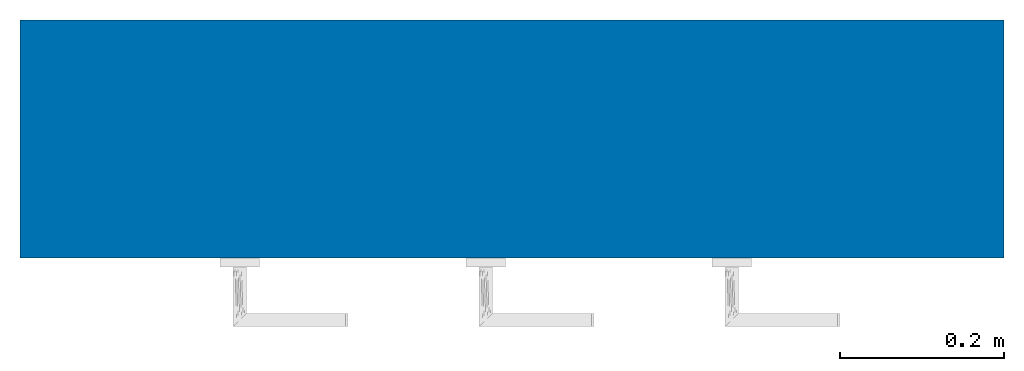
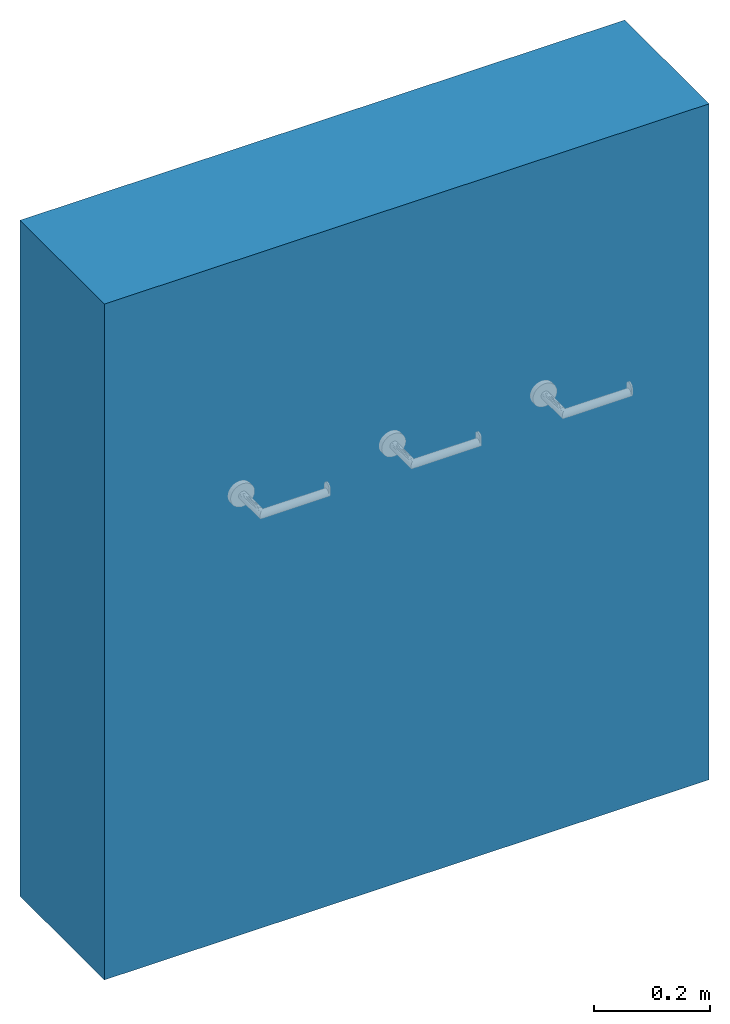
# One storey, part 1 of 3: 1 wall.
"""IFC2X3 building model written with IfcOpenShell, lengths in millimetres."""

import ifcopenshell
import ifcopenshell.guid

model = None  # the IFC model being written
_history = None  # IfcOwnerHistory: only IFC2X3 demands one
_inside = {}  # id of a spatial element -> (the spatial element, [elements in it])
_under = {}  # id of a project, library or spatial element -> (it, [spatial elements below it])
_declared = {}  # id of a project -> (the project, [libraries it declares])
_typed = {}  # id of a type object -> (the type object, [elements of that type])
_made_of = {}  # id of a material, layer set ... -> (it, [elements and type objects made of it])


def new_model(schema):
    """Start an empty IFC model of exactly this schema.

    Asked for "IFC4X3", IfcOpenShell would pick the latest addendum, in which some entities
    have other attributes; the version numbers below select the first issue.
    IFC2X3 requires an IfcOwnerHistory on every rooted entity: one is made here for all.
    """
    global model, _history
    if schema == "IFC4X3":
        model = ifcopenshell.file(schema_version=(4, 3, 0, 0))
    else:
        model = ifcopenshell.file(schema=schema)
    _inside.clear()
    _under.clear()
    _declared.clear()
    _typed.clear()
    _made_of.clear()
    _history = None
    if model.schema == "IFC2X3":
        org = make("IfcOrganization", Name="unknown")
        user = make(
            "IfcPersonAndOrganization",
            ThePerson=make("IfcPerson", FamilyName="unknown"),
            TheOrganization=org,
        )
        app = make(
            "IfcApplication",
            ApplicationDeveloper=org,
            Version="unknown",
            ApplicationFullName="unknown",
            ApplicationIdentifier="unknown",
        )
        _history = make(
            "IfcOwnerHistory",
            OwningUser=user,
            OwningApplication=app,
            ChangeAction="ADDED",
            CreationDate=0,
        )
    return model


def make(cls, **values):
    """One entity of the class cls with the attributes given. An attribute that is None is left unset."""
    return model.create_entity(
        cls, **{name: value for name, value in values.items() if value is not None}
    )


def entity(cls, *values):
    """Any entity or typed value of the class cls, its attributes in the order of the schema. None: left unset."""
    e = model.create_entity(cls)
    for i, value in enumerate(values):
        if value is not None:
            e[i] = value
    return e


def rooted(cls, **values):
    """An entity with a GlobalId (a new one), such as an element, a storey or a relation."""
    return make(cls, GlobalId=ifcopenshell.guid.new(), OwnerHistory=_history, **values)


def si_unit(unit_type, name, prefix=None):
    """IfcSIUnit, for example si_unit("LENGTHUNIT", "METRE", prefix="MILLI")."""
    return make("IfcSIUnit", UnitType=unit_type, Prefix=prefix, Name=name)


def converted_unit(unit_type, name, factor, base, dimensions=None, offset=None):
    """IfcConversionBasedUnit, such as the inch: factor (a typed value) times the base unit."""
    return make(
        "IfcConversionBasedUnit"
        if offset is None
        else "IfcConversionBasedUnitWithOffset",
        ConversionOffset=offset,
        Dimensions=None
        if dimensions is None
        else entity("IfcDimensionalExponents", *dimensions),
        UnitType=unit_type,
        Name=name,
        ConversionFactor=make(
            "IfcMeasureWithUnit", ValueComponent=factor, UnitComponent=base
        ),
    )


def derived_unit(unit_type, elements):
    """IfcDerivedUnit: a product of units, each with its exponent."""
    return make(
        "IfcDerivedUnit",
        Elements=[
            make("IfcDerivedUnitElement", Unit=unit, Exponent=power)
            for unit, power in elements
        ],
        UnitType=unit_type,
    )


def assignment(units):
    """IfcUnitAssignment: the units of a project."""
    return None if units is None else make("IfcUnitAssignment", Units=units)


def point(xyz):
    """IfcCartesianPoint."""
    return None if xyz is None else make("IfcCartesianPoint", Coordinates=xyz)


def direction(xyz):
    """IfcDirection."""
    return None if xyz is None else make("IfcDirection", DirectionRatios=xyz)


def frame(location, z_axis=None, x_axis=None):
    """IfcAxis2Placement3D, a coordinate frame: its origin and axes. An axis left out is left unset."""
    return make(
        "IfcAxis2Placement3D",
        Location=point(location),
        Axis=direction(z_axis),
        RefDirection=direction(x_axis),
    )


def frame_2d(location, x_axis=None):
    """IfcAxis2Placement2D, a coordinate frame in the plane: its origin and x axis."""
    return make(
        "IfcAxis2Placement2D", Location=point(location), RefDirection=direction(x_axis)
    )


def origin():
    """The frame at (0, 0, 0) with its axes left unset."""
    return frame((0.0, 0.0, 0.0))


def place(relative_to, where):
    """IfcLocalPlacement: puts the frame where relative to a parent placement (None: the world)."""
    return make(
        "IfcLocalPlacement", PlacementRelTo=relative_to, RelativePlacement=where
    )


def context(
    kind, dimensions, precision=None, world=None, true_north=None, identifier=None
):
    """IfcGeometricRepresentationContext, for example the 3D "Model" context."""
    return make(
        "IfcGeometricRepresentationContext",
        ContextIdentifier=identifier,
        ContextType=kind,
        CoordinateSpaceDimension=dimensions,
        Precision=precision,
        WorldCoordinateSystem=world,
        TrueNorth=true_north,
    )


def subcontext(parent, identifier, kind, view, scale=None):
    """IfcGeometricRepresentationSubContext, for example "Body" below "Model"."""
    return make(
        "IfcGeometricRepresentationSubContext",
        ContextIdentifier=identifier,
        ContextType=kind,
        ParentContext=parent,
        TargetScale=scale,
        TargetView=view,
    )


def project(units=None, contexts=None):
    """IfcProject with its units and contexts."""
    return rooted(
        "IfcProject",
        Name="project",
        RepresentationContexts=contexts,
        UnitsInContext=assignment(units),
    )


def spatial(cls, under=None, at=None, **own):
    """A site, building, storey or space (cls), placed at a placement, below another one or the project."""
    s = rooted(cls, ObjectPlacement=at, **own)
    if under is not None:
        _under.setdefault(under.id(), (under, []))[1].append(s)
    return s


def profile(cls, at=None, kind="AREA", **sizes):
    """A parametric profile (cls). Its sizes go by their IFC names, for example OverallWidth=200.0."""
    return make(cls, ProfileType=kind, Position=at, **sizes)


def rectangle(**sizes):
    """IfcRectangleProfileDef."""
    return profile("IfcRectangleProfileDef", **sizes)


def extrude(swept, where, along, depth):
    """IfcExtrudedAreaSolid: the profile swept, set in the frame where, extruded along a direction by depth."""
    return make(
        "IfcExtrudedAreaSolid",
        SweptArea=swept,
        Position=where,
        ExtrudedDirection=direction(along),
        Depth=depth,
    )


def shape(context_of_items, identifier, shape_type, items):
    """IfcShapeRepresentation: the items that make up one representation, for example the "Body"."""
    return make(
        "IfcShapeRepresentation",
        ContextOfItems=context_of_items,
        RepresentationIdentifier=identifier,
        RepresentationType=shape_type,
        Items=items,
    )


def material(Name=None, Category=None):
    """IfcMaterial."""
    return make("IfcMaterial", Name=Name, Category=Category)


def layer(
    of_material, thickness, ventilated=None, Name=None, Category=None, Priority=None
):
    """IfcMaterialLayer: one layer of a wall or slab, of a material (None: an air gap)."""
    return make(
        "IfcMaterialLayer",
        Material=of_material,
        LayerThickness=thickness,
        IsVentilated=ventilated,
        Name=Name,
        Category=Category,
        Priority=Priority,
    )


def layer_set(layers, Name=None):
    """IfcMaterialLayerSet."""
    return make("IfcMaterialLayerSet", MaterialLayers=layers, LayerSetName=Name)


def layer_usage(for_layer_set, set_direction, sense, offset, extent=None):
    """IfcMaterialLayerSetUsage: how a layer set lies in its element."""
    return make(
        "IfcMaterialLayerSetUsage",
        ForLayerSet=for_layer_set,
        LayerSetDirection=set_direction,
        DirectionSense=sense,
        OffsetFromReferenceLine=offset,
        ReferenceExtent=extent,
    )


def made_of(thing, what):
    """Note that an element or type object is made of a material, layer set ...; save() writes the relation."""
    if what is not None:
        _made_of.setdefault(what.id(), (what, []))[1].append(thing)
    return thing


def type_object(cls, material=None, **own):
    """A type object (cls), such as IfcWallType, which elements share."""
    return made_of(rooted(cls, **own), material)


def element(
    cls,
    number,
    at=None,
    inside=None,
    cuts=None,
    type_object=None,
    material=None,
    context=None,
    identifier="Body",
    shape_type=None,
    held_by="IfcProductDefinitionShape",
    body=None,
    shapes=None,
    **own,
):
    """One element of the class cls, such as IfcWall. Its Tag is "e" and its number.

    at: its placement. inside: the storey or other place that contains it. cuts: it is an
    opening in that element (IfcRelVoidsElement). A single representation is given by context,
    identifier, shape_type and body (its items); several are given by shapes. held_by: the class
    of the entity that holds the representations. save() writes the other relations.
    """
    e = rooted(cls, Tag="e%d" % number, ObjectPlacement=at, **own)
    if body is not None:
        shapes = [shape(context, identifier, shape_type, body)]
    if shapes is not None:
        e.Representation = make(held_by, Representations=shapes)
    if inside is not None:
        _inside.setdefault(inside.id(), (inside, []))[1].append(e)
    if cuts is not None:
        rooted(
            "IfcRelVoidsElement", RelatingBuildingElement=cuts, RelatedOpeningElement=e
        )
    if type_object is not None:
        _typed.setdefault(type_object.id(), (type_object, []))[1].append(e)
    return made_of(e, material)


def aggregate(whole, parts):
    """IfcRelAggregates: a whole, such as a stair, and the parts it consists of."""
    return rooted("IfcRelAggregates", RelatingObject=whole, RelatedObjects=parts)


def save(model, path):
    """Write the relations noted so far, then the file.

    IfcRelAggregates (storeys below a building ...), IfcRelContainedInSpatialStructure (elements
    in a storey), IfcRelDefinesByType, IfcRelAssociatesMaterial and IfcRelDeclares: one each for
    every whole, place, type object, material and project.
    """
    for whole, parts in _under.values():
        aggregate(whole, parts)
    for where, things in _inside.values():
        rooted(
            "IfcRelContainedInSpatialStructure",
            RelatedElements=things,
            RelatingStructure=where,
        )
    for kind, things in _typed.values():
        rooted("IfcRelDefinesByType", RelatedObjects=things, RelatingType=kind)
    for what, things in _made_of.values():
        rooted("IfcRelAssociatesMaterial", RelatedObjects=things, RelatingMaterial=what)
    for by, libraries in _declared.values():
        rooted("IfcRelDeclares", RelatingContext=by, RelatedDefinitions=libraries)
    model.write(path)


model = new_model("IFC2X3")

# Units and contexts
model_context = context("Model", 3, precision=0.01, world=origin(), true_north=direction((6.12303176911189e-17, 1.0)))
body_context = subcontext(model_context, "Body", "Model", "MODEL_VIEW")
ifc_project = project(units=[si_unit("LENGTHUNIT", "METRE", prefix="MILLI"), si_unit("AREAUNIT", "SQUARE_METRE"), si_unit("VOLUMEUNIT", "CUBIC_METRE"), converted_unit("PLANEANGLEUNIT", "DEGREE", entity("IfcRatioMeasure", 0.0174532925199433), si_unit("PLANEANGLEUNIT", "RADIAN"), dimensions=[0, 0, 0, 0, 0, 0, 0]), si_unit("MASSUNIT", "GRAM", prefix="KILO"), derived_unit("MASSDENSITYUNIT", [(si_unit("MASSUNIT", "GRAM", prefix="KILO"), 1), (si_unit("LENGTHUNIT", "METRE"), -3)]), si_unit("TIMEUNIT", "SECOND"), si_unit("FREQUENCYUNIT", "HERTZ"), si_unit("THERMODYNAMICTEMPERATUREUNIT", "DEGREE_CELSIUS"), derived_unit("THERMALTRANSMITTANCEUNIT", [(si_unit("MASSUNIT", "GRAM", prefix="KILO"), 1), (si_unit("THERMODYNAMICTEMPERATUREUNIT", "KELVIN"), -1), (si_unit("TIMEUNIT", "SECOND"), -3)]), derived_unit("VOLUMETRICFLOWRATEUNIT", [(si_unit("LENGTHUNIT", "METRE"), 3), (si_unit("TIMEUNIT", "SECOND"), -1)]), si_unit("ELECTRICCURRENTUNIT", "AMPERE"), si_unit("ELECTRICVOLTAGEUNIT", "VOLT"), si_unit("POWERUNIT", "WATT"), si_unit("FORCEUNIT", "NEWTON", prefix="KILO"), si_unit("ILLUMINANCEUNIT", "LUX"), si_unit("LUMINOUSFLUXUNIT", "LUMEN"), si_unit("LUMINOUSINTENSITYUNIT", "CANDELA"), derived_unit("USERDEFINED", [(si_unit("MASSUNIT", "GRAM", prefix="KILO"), -1), (si_unit("LENGTHUNIT", "METRE"), -2), (si_unit("TIMEUNIT", "SECOND"), 3), (si_unit("LUMINOUSFLUXUNIT", "LUMEN"), 1)]), derived_unit("LINEARVELOCITYUNIT", [(si_unit("LENGTHUNIT", "METRE"), 1), (si_unit("TIMEUNIT", "SECOND"), -1)]), si_unit("PRESSUREUNIT", "PASCAL"), derived_unit("USERDEFINED", [(si_unit("LENGTHUNIT", "METRE"), -2), (si_unit("MASSUNIT", "GRAM", prefix="KILO"), 1), (si_unit("TIMEUNIT", "SECOND"), -2)])], contexts=[model_context])

# Site, building, storey
site_placement = place(None, origin())
site = spatial("IfcSite", under=ifc_project, at=site_placement, Name="Default", CompositionType="ELEMENT")
building_placement = place(site_placement, origin())
building = spatial("IfcBuilding", under=site, at=building_placement, CompositionType="ELEMENT")
storey_placement = place(building_placement, origin())
storey = spatial("IfcBuildingStorey", under=building, at=storey_placement, Name="Level 0", CompositionType="ELEMENT", Elevation=0.0)

# Wall
ifc_material_1 = material(Name="Brick, Common")
ifc_layer_1 = layer(ifc_material_1, 102.5)
ifc_material_2 = material(Name="Fiberglass Batt")
ifc_layer_2 = layer(ifc_material_2, 75.0)
ifc_material_3 = material(Name="Concrete Masonry Units _Low Density")
ifc_layer_3 = layer(ifc_material_3, 100.0)
ifc_material_4 = material(Name="Plaster")
ifc_layer_4 = layer(ifc_material_4, 12.5)
ifc_layer_set = layer_set([ifc_layer_1, ifc_layer_2, ifc_layer_3, ifc_layer_4], Name="Basic Wall:Wall-Ext_102Bwk-75Ins-100LBlk-12P")
ifc_layer_usage = layer_usage(ifc_layer_set, "AXIS2", "NEGATIVE", 145.0)
wall_type = type_object("IfcWallType", Name="Basic Wall:Wall-Ext_102Bwk-75Ins-100LBlk-12P", PredefinedType="STANDARD", material=ifc_layer_set)
wall_placement = place(storey_placement, frame((-5392.06711548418, 926.719275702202, 0.0)))
element("IfcWallStandardCase", 1, at=wall_placement, inside=storey, type_object=wall_type, material=ifc_layer_usage, Name="Basic Wall:Wall-Ext_102Bwk-75Ins-100LBlk-12P", ObjectType="Basic Wall:Wall-Ext_102Bwk-75Ins-100LBlk-12P", context=body_context, shape_type="SweptSolid", body=[
    extrude(rectangle(XDim=1200.0, YDim=290.0, at=frame_2d((600.0, 4.2632564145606e-14), x_axis=(-1.0, 0.0))), origin(), (0.0, 0.0, 1.0), 1417.98042091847),
])

save(model, "model.ifc")
